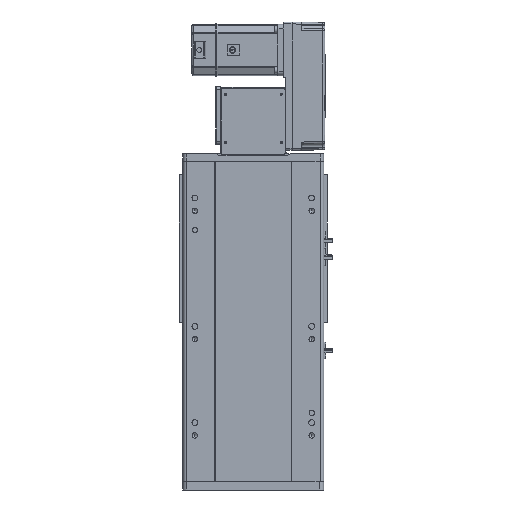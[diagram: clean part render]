
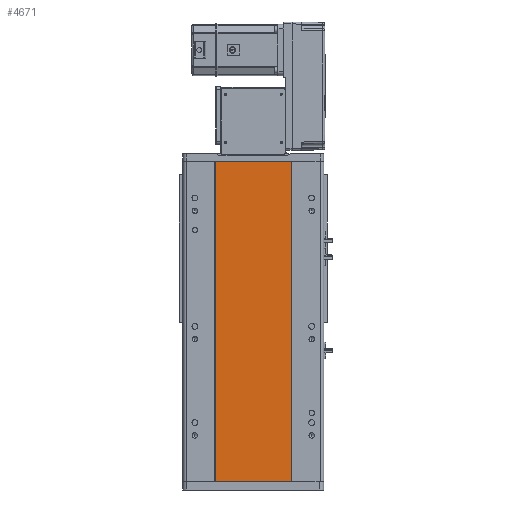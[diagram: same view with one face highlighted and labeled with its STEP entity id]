
A CAD part, front view. The second image highlights one B-rep face of the part: STEP entity #4671.
In plain terms, the highlighted planar face has unit normal (0, -1, 0).
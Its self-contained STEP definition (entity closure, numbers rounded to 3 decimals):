
#929 = EDGE_CURVE ( 'NONE', #9947, #43718, #24776, .T. ) ;
#2803 = ORIENTED_EDGE ( 'NONE', *, *, #929, .T. ) ;
#3112 = VECTOR ( 'NONE', #13379, 1000. ) ;
#3166 = LINE ( 'NONE', #14289, #6659 ) ;
#4671 = ADVANCED_FACE ( 'NONE', ( #8442 ), #39491, .F. ) ;
#5251 = CARTESIAN_POINT ( 'NONE',  ( -59., 1., 249.5 ) ) ;
#5564 = EDGE_CURVE ( 'NONE', #30908, #9947, #21695, .T. ) ;
#6659 = VECTOR ( 'NONE', #7859, 1000. ) ;
#7859 = DIRECTION ( 'NONE',  ( 0., 0., -1. ) ) ;
#8442 = FACE_OUTER_BOUND ( 'NONE', #9886, .T. ) ;
#9447 = DIRECTION ( 'NONE',  ( 0., 0., -1. ) ) ;
#9886 = EDGE_LOOP ( 'NONE', ( #2803, #42091, #39935, #43883 ) ) ;
#9947 = VERTEX_POINT ( 'NONE', #36595 ) ;
#12845 = CARTESIAN_POINT ( 'NONE',  ( -59., 1., -249.5 ) ) ;
#13379 = DIRECTION ( 'NONE',  ( 1., 0., 0. ) ) ;
#14289 = CARTESIAN_POINT ( 'NONE',  ( 59., 1., 249.5 ) ) ;
#16783 = EDGE_CURVE ( 'NONE', #21428, #43718, #3166, .T. ) ;
#17592 = CARTESIAN_POINT ( 'NONE',  ( -59., 1., 249.5 ) ) ;
#18041 = VECTOR ( 'NONE', #39997, 1000. ) ;
#21428 = VERTEX_POINT ( 'NONE', #24492 ) ;
#21695 = LINE ( 'NONE', #32298, #48950 ) ;
#24222 = DIRECTION ( 'NONE',  ( -1., 0., 0. ) ) ;
#24492 = CARTESIAN_POINT ( 'NONE',  ( 59., 1., 249.5 ) ) ;
#24776 = LINE ( 'NONE', #12845, #18041 ) ;
#30908 = VERTEX_POINT ( 'NONE', #30933 ) ;
#30933 = CARTESIAN_POINT ( 'NONE',  ( -59., 1., 249.5 ) ) ;
#32298 = CARTESIAN_POINT ( 'NONE',  ( -59., 1., 249.5 ) ) ;
#36430 = LINE ( 'NONE', #17592, #3112 ) ;
#36595 = CARTESIAN_POINT ( 'NONE',  ( -59., 1., -249.5 ) ) ;
#37550 = AXIS2_PLACEMENT_3D ( 'NONE', #5251, #40133, #24222 ) ;
#39491 = PLANE ( 'NONE',  #37550 ) ;
#39935 = ORIENTED_EDGE ( 'NONE', *, *, #45701, .F. ) ;
#39997 = DIRECTION ( 'NONE',  ( 1., 0., 0. ) ) ;
#40133 = DIRECTION ( 'NONE',  ( 0., 1., 0. ) ) ;
#42091 = ORIENTED_EDGE ( 'NONE', *, *, #16783, .F. ) ;
#43718 = VERTEX_POINT ( 'NONE', #45212 ) ;
#43883 = ORIENTED_EDGE ( 'NONE', *, *, #5564, .T. ) ;
#45212 = CARTESIAN_POINT ( 'NONE',  ( 59., 1., -249.5 ) ) ;
#45701 = EDGE_CURVE ( 'NONE', #30908, #21428, #36430, .T. ) ;
#48950 = VECTOR ( 'NONE', #9447, 1000. ) ;
